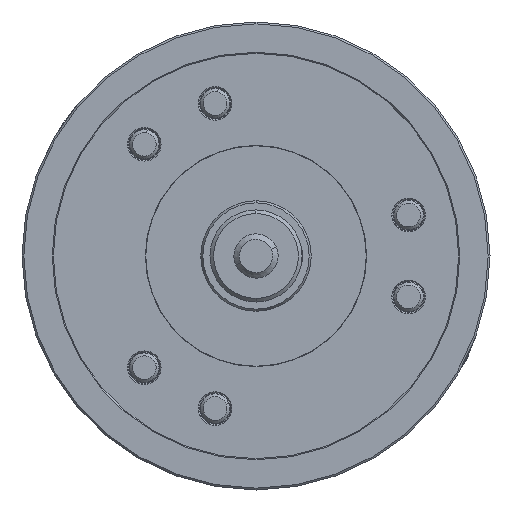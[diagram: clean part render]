
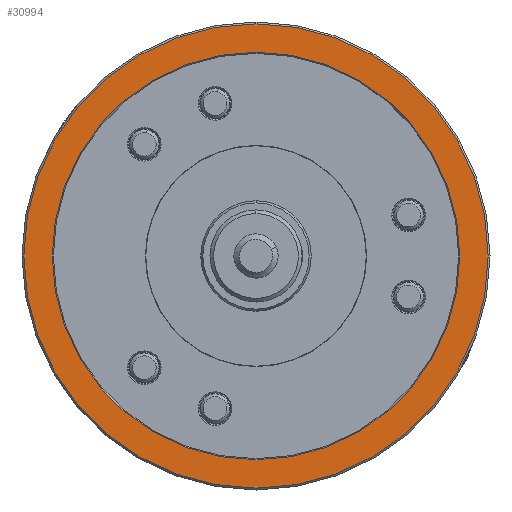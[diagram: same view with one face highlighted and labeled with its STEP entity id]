
A CAD part, left-side view. The second image highlights one B-rep face of the part: STEP entity #30994.
In plain terms, the highlighted planar face has unit normal (-1, 0, 0).
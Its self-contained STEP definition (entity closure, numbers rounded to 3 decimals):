
#2632 = VERTEX_POINT ( 'NONE', #9764 ) ;
#2852 = DIRECTION ( 'NONE',  ( 0., 0., -1. ) ) ;
#3775 = CIRCLE ( 'NONE', #16483, 126. ) ;
#4540 = VERTEX_POINT ( 'NONE', #26662 ) ;
#5693 = CARTESIAN_POINT ( 'NONE',  ( -110., 0., 0. ) ) ;
#5778 = FACE_BOUND ( 'NONE', #23334, .T. ) ;
#5849 = DIRECTION ( 'NONE',  ( 0., 0., 1. ) ) ;
#7209 = VERTEX_POINT ( 'NONE', #23794 ) ;
#8673 = DIRECTION ( 'NONE',  ( 0., 0., -1. ) ) ;
#9759 = CIRCLE ( 'NONE', #18230, 110.6 ) ;
#9764 = CARTESIAN_POINT ( 'NONE',  ( -110., 0., -126. ) ) ;
#10277 = AXIS2_PLACEMENT_3D ( 'NONE', #13567, #34563, #16557 ) ;
#13567 = CARTESIAN_POINT ( 'NONE',  ( -110., 0., 0. ) ) ;
#13848 = ORIENTED_EDGE ( 'NONE', *, *, #27343, .F. ) ;
#13975 = CIRCLE ( 'NONE', #10277, 110.6 ) ;
#14537 = ORIENTED_EDGE ( 'NONE', *, *, #16047, .T. ) ;
#14707 = PLANE ( 'NONE',  #33692 ) ;
#14970 = CARTESIAN_POINT ( 'NONE',  ( -110., 0., 0. ) ) ;
#16047 = EDGE_CURVE ( 'NONE', #33734, #4540, #9759, .T. ) ;
#16483 = AXIS2_PLACEMENT_3D ( 'NONE', #5693, #26617, #8673 ) ;
#16557 = DIRECTION ( 'NONE',  ( 0., 0., -1. ) ) ;
#16822 = AXIS2_PLACEMENT_3D ( 'NONE', #14970, #35981, #17970 ) ;
#16932 = CARTESIAN_POINT ( 'NONE',  ( -110., 0., -110.6 ) ) ;
#17708 = CARTESIAN_POINT ( 'NONE',  ( -110., 126., 0. ) ) ;
#17970 = DIRECTION ( 'NONE',  ( 0., 0., -1. ) ) ;
#18230 = AXIS2_PLACEMENT_3D ( 'NONE', #38745, #20785, #2852 ) ;
#18539 = ORIENTED_EDGE ( 'NONE', *, *, #34410, .F. ) ;
#18724 = CIRCLE ( 'NONE', #16822, 126. ) ;
#20677 = ORIENTED_EDGE ( 'NONE', *, *, #28132, .T. ) ;
#20743 = FACE_OUTER_BOUND ( 'NONE', #34170, .T. ) ;
#20785 = DIRECTION ( 'NONE',  ( 1., 0., 0. ) ) ;
#23334 = EDGE_LOOP ( 'NONE', ( #20677, #14537 ) ) ;
#23780 = DIRECTION ( 'NONE',  ( -1., 0., 0. ) ) ;
#23794 = CARTESIAN_POINT ( 'NONE',  ( -110., 0., 126. ) ) ;
#26617 = DIRECTION ( 'NONE',  ( 1., 0., 0. ) ) ;
#26662 = CARTESIAN_POINT ( 'NONE',  ( -110., 0., 110.6 ) ) ;
#27343 = EDGE_CURVE ( 'NONE', #7209, #2632, #3775, .T. ) ;
#28132 = EDGE_CURVE ( 'NONE', #4540, #33734, #13975, .T. ) ;
#30994 = ADVANCED_FACE ( 'NONE', ( #5778, #20743 ), #14707, .T. ) ;
#33692 = AXIS2_PLACEMENT_3D ( 'NONE', #17708, #23780, #5849 ) ;
#33734 = VERTEX_POINT ( 'NONE', #16932 ) ;
#34170 = EDGE_LOOP ( 'NONE', ( #18539, #13848 ) ) ;
#34410 = EDGE_CURVE ( 'NONE', #2632, #7209, #18724, .T. ) ;
#34563 = DIRECTION ( 'NONE',  ( 1., 0., 0. ) ) ;
#35981 = DIRECTION ( 'NONE',  ( 1., 0., 0. ) ) ;
#38745 = CARTESIAN_POINT ( 'NONE',  ( -110., 0., 0. ) ) ;
